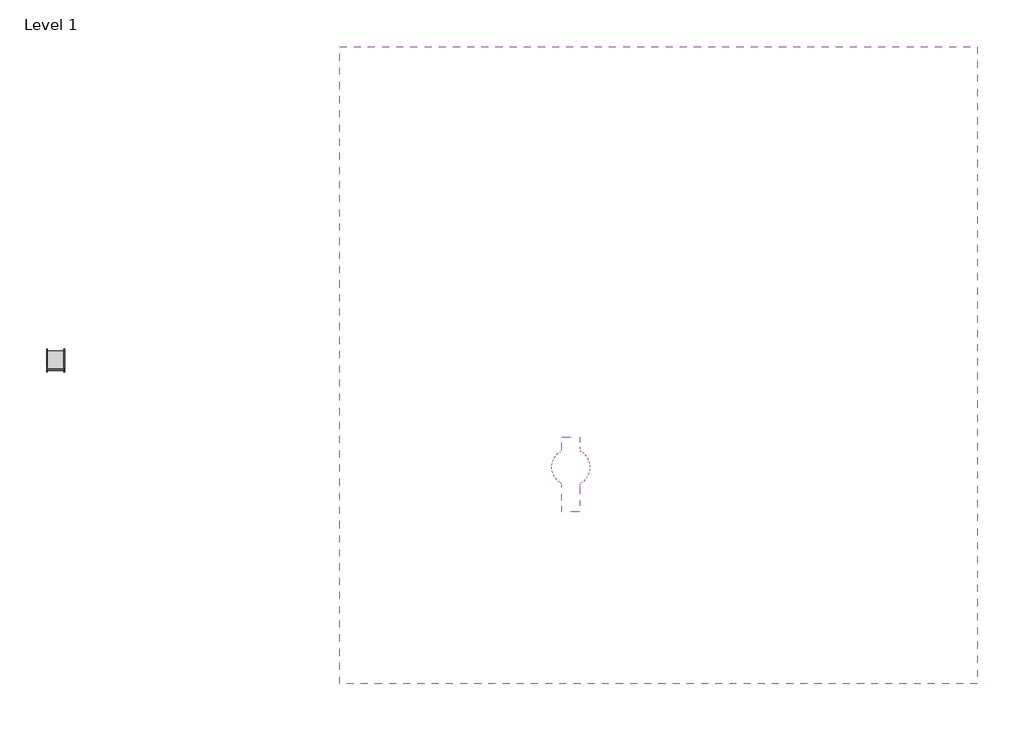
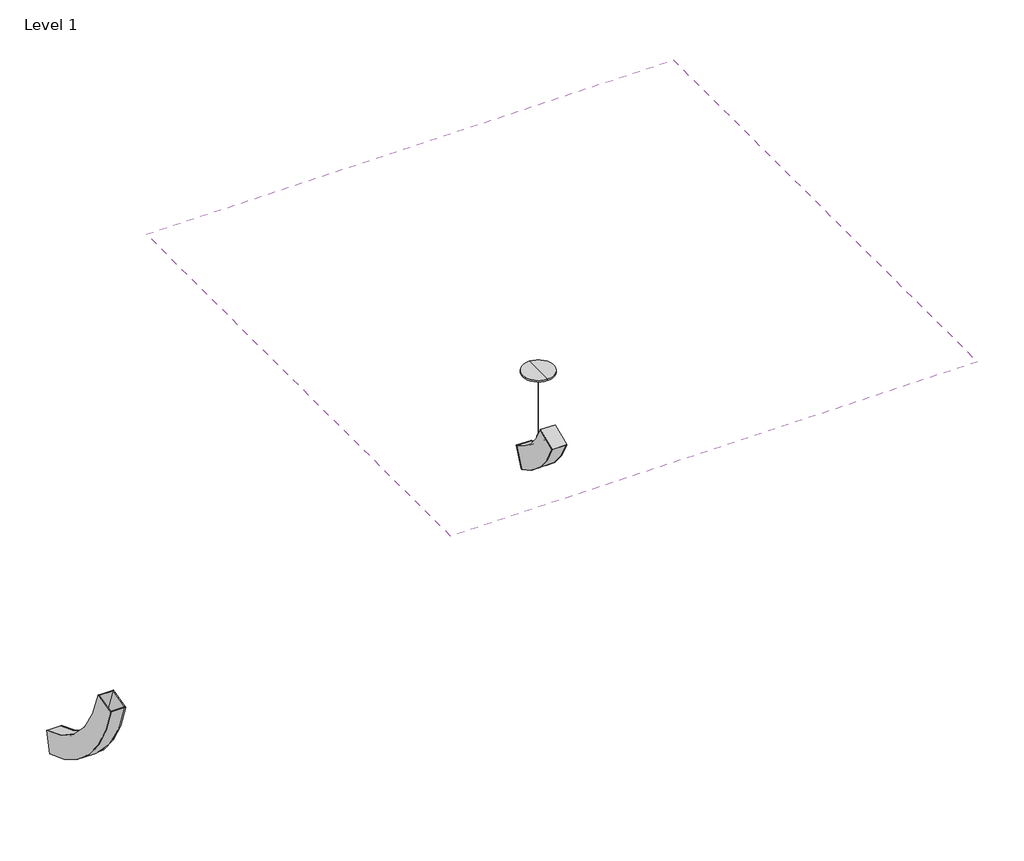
# One storey, incomplete: 2 light fixtures, 1 covering.
"""IFC4 building model written with IfcOpenShell, lengths in millimetres."""

from ifc_helpers import new_model, si_unit, frame, origin, place, context, project, spatial, polyline, outline, extrude, transform, mapped, element, save
from components import light_fixture_3501954e, direct_9e3152ac

model = new_model("IFC4")

# Units and contexts
model_context = context("Model", 3, world=origin())
ifc_project = project(units=[si_unit("LENGTHUNIT", "METRE", prefix="MILLI")], contexts=[model_context])

# Site, building, storey
site = spatial("IfcSite", under=ifc_project)
building = spatial("IfcBuilding", under=site)
storey = spatial("IfcBuildingStorey", under=building, Name="Level 1", Elevation=0.0)

# Covering
placement = place(None, origin())
element("IfcCovering", 1, ObjectType="2' x 4' ACT System", at=placement, inside=storey, context=model_context, shape_type="SweptSolid", body=[
    extrude(outline(polyline([(4211.5267332, -1033.9972232), (4211.5267332, -3167.5972232), (2077.9267332, -3167.5972232), (2077.9267332, -1033.9972232), (4211.5267332, -1033.9972232)])), frame((0.0, 0.0, 2438.4), z_axis=(0.0, 0.0, 1.0), x_axis=(1.0, 0.0, 0.0)), (0.0, 0.0, 1.0), 57.15),
])

# Light fixtures
light_fixture_shape = light_fixture_3501954e(model_context)
element("IfcLightFixture", 2, ObjectType="Lighting-Recessed-Lumenwerx-Curvia_2_XYZ-OUTC : CURV2PPAT-D-HLO-SW-80-350-35-OUTC", at=placement, inside=storey, context=model_context, shape_type="MappedRepresentation", body=[
    mapped(light_fixture_shape, transform((1128.2741268, -1812.145512, 808.3235788), x_axis=(1.0, 0.0, 0.0), y_axis=(0.0, -0.6978898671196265, 0.7162050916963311), z_axis=(0.0, -0.7162050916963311, -0.6978898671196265))),
])
direct_shape = direct_9e3152ac(model_context)
element("IfcLightFixture", 3, ObjectType="Lighting-Pendant-Lumenwerx-Curvia_2_XYZ-OUTC : Direct", at=placement, inside=storey, context=model_context, shape_type="MappedRepresentation", body=[
    mapped(direct_shape, transform((2851.7367278, -1706.1822372, 2438.4), x_axis=(1.0, 0.0, 0.0), y_axis=(0.0, -1.0, 0.0), z_axis=(0.0, 0.0, -1.0))),
])

save(model, "model.ifc")
